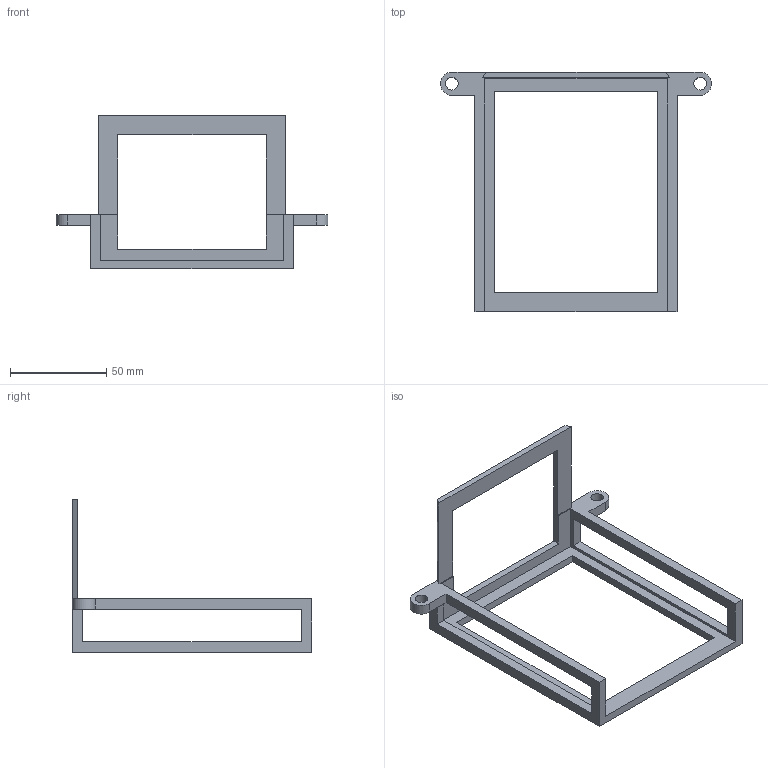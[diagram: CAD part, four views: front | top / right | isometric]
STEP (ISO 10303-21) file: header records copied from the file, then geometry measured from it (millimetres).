
FILE_DESCRIPTION (( 'STEP AP214' ), '1' );
FILE_NAME ('Front Plate.STEP', '2024-05-28T04:03:43', ( '' ), ( '' ), 'SwSTEP 2.0', 'SolidWorks 2022', '' );
FILE_SCHEMA (( 'AUTOMOTIVE_DESIGN' ));
Length unit declared in the file: centimetre
Products named in the file (1): Front Plate
Bounding box: 141 x 124.5 x 79.5 mm (x, y, z)
Volume: 37348.3 mm3; surface area: 26511.9 mm2
Topology: 1 solids, 1 shells, 40 faces, 123 edges, 82 vertices
Faces by surface type: plane 33, cylinder 7
Entity records: 1419 total; most frequent: ORIENTED_EDGE 246, CARTESIAN_POINT 246, DIRECTION 219, EDGE_CURVE 123, LINE 109, VECTOR 109, VERTEX_POINT 82, AXIS2_PLACEMENT_3D 55
